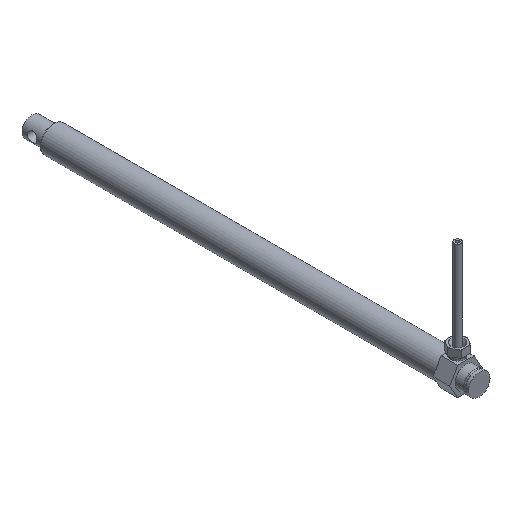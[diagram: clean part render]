
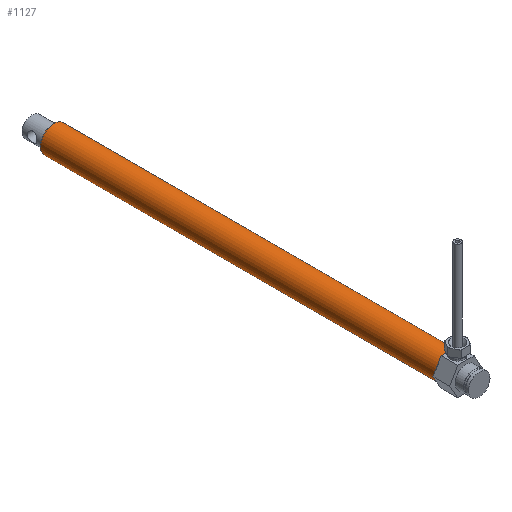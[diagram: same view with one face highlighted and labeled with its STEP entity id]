
A CAD part, isometric view. The second image highlights one B-rep face of the part: STEP entity #1127.
In plain terms, the highlighted cylindrical face has radius 8 mm (diameter 16 mm), a full revolution.
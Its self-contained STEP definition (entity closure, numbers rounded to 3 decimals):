
#181=CYLINDRICAL_SURFACE('',#1682,8.);
#216=ORIENTED_EDGE('',*,*,#457,.F.);
#217=ORIENTED_EDGE('',*,*,#461,.T.);
#457=EDGE_CURVE('',#581,#581,#689,.T.);
#461=EDGE_CURVE('',#585,#585,#693,.T.);
#581=VERTEX_POINT('',#2228);
#585=VERTEX_POINT('',#2239);
#689=CIRCLE('',#1674,8.);
#693=CIRCLE('',#1681,8.);
#768=EDGE_LOOP('',(#216));
#769=EDGE_LOOP('',(#217));
#930=FACE_BOUND('',#768,.T.);
#931=FACE_BOUND('',#769,.T.);
#1127=ADVANCED_FACE('',(#930,#931),#181,.T.);
#1674=AXIS2_PLACEMENT_3D('',#2227,#1849,#1850);
#1681=AXIS2_PLACEMENT_3D('',#2238,#1863,#1864);
#1682=AXIS2_PLACEMENT_3D('',#2240,#1865,#1866);
#1849=DIRECTION('',(-1.,0.,0.));
#1850=DIRECTION('',(0.,0.,1.));
#1863=DIRECTION('',(-1.,0.,0.));
#1864=DIRECTION('',(0.,0.,1.));
#1865=DIRECTION('',(-1.,0.,0.));
#1866=DIRECTION('',(0.,0.,1.));
#2227=CARTESIAN_POINT('',(0.,0.,0.));
#2228=CARTESIAN_POINT('',(0.,0.,8.));
#2238=CARTESIAN_POINT('',(238.,0.,0.));
#2239=CARTESIAN_POINT('',(238.,0.,8.));
#2240=CARTESIAN_POINT('',(-60.,0.,0.));
